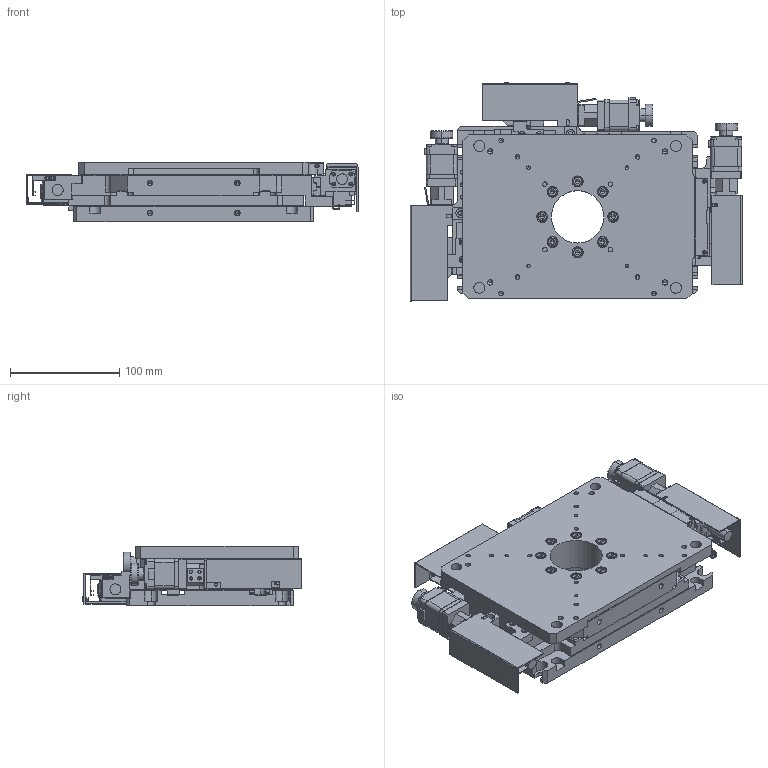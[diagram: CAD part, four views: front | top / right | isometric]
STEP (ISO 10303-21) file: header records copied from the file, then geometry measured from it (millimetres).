
FILE_DESCRIPTION (( 'STEP AP214' ), '1' );
FILE_NAME ('TXYRA200-L1-M28.STEP', '2025-01-03T07:56:57', ( '' ), ( '' ), 'SwSTEP 2.0', 'SolidWorks 2020', '' );
FILE_SCHEMA (( 'AUTOMOTIVE_DESIGN' ));
Length unit declared in the file: millimetre
Products named in the file (1): TXYRA200-L1-M28
Bounding box: 304 x 199.7 x 54.5 mm (x, y, z)
Volume: 1608939.5 mm3; surface area: 336839.6 mm2
Topology: 1 solids, 72 shells, 2730 faces, 7047 edges, 4504 vertices
Faces by surface type: plane 1494, cylinder 920, cone 288, torus 28
Entity records: 112283 total; most frequent: CARTESIAN_POINT 14467, DIRECTION 14424, ORIENTED_EDGE 13750, EDGE_CURVE 6875, AXIS2_PLACEMENT_3D 4892, VECTOR 4640, LINE 4640, VERTEX_POINT 4504
